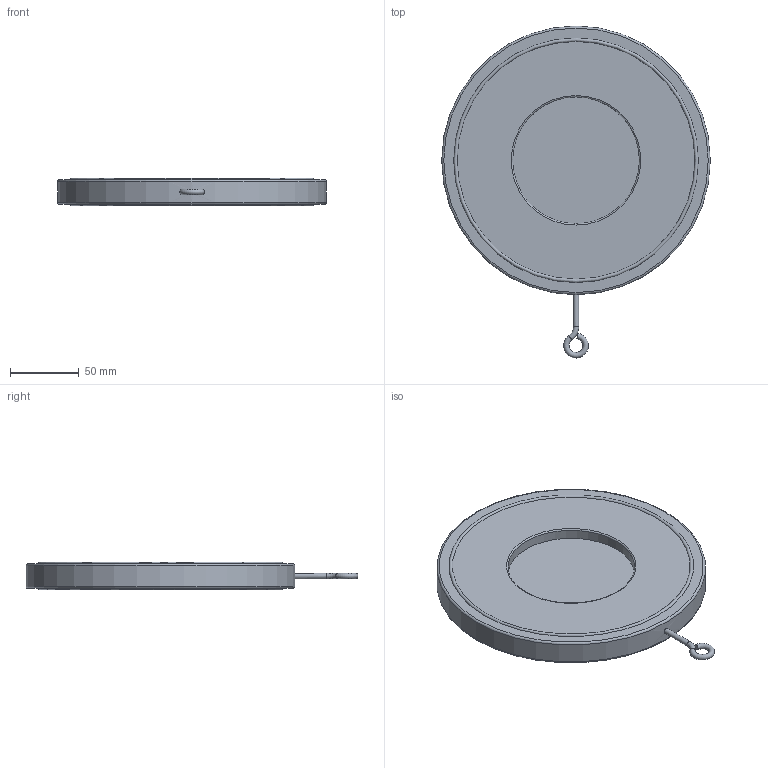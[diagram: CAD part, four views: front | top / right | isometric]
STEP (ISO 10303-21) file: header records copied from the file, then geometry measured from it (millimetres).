
FILE_DESCRIPTION( ( 'Unknown' ), '1' );
FILE_NAME( 'C:/Documents and Settings/Klaus/My Documents/Rootsi BPS 3D, Klaus/BPS 6505 swing check valve/STEP/BPS6505125 swing check valve DN125.stp', 'Unknown', ( 'Unknown' ), ( 'Unknown' ), 'PSStep 10.1', 'Unknown', ' ' );
FILE_SCHEMA( ( 'AUTOMOTIVE_DESIGN { 1 0 10303 214 1 1 1 1 }' ) );
Length unit declared in the file: millimetre
Products named in the file (1): 1
Bounding box: 195 x 240.98 x 19.99 mm (x, y, z)
Volume: 474421.9 mm3; surface area: 82067.1 mm2
Topology: 1 solids, 1 shells, 246 faces, 625 edges, 410 vertices
Faces by surface type: plane 166, extrusion 53, cylinder 13, torus 11, bspline 2, cone 1
Full cylindrical faces by diameter (mm): 4 x1, 14 x2, 92 x1, 195 x1
Entity records: 10938 total; most frequent: CARTESIAN_POINT 3690, ORIENTED_EDGE 1212, DIRECTION 774, EDGE_CURVE 606, VERTEX_POINT 405, B_SPLINE_CURVE_WITH_KNOTS 376, EDGE_LOOP 293, VECTOR 282
